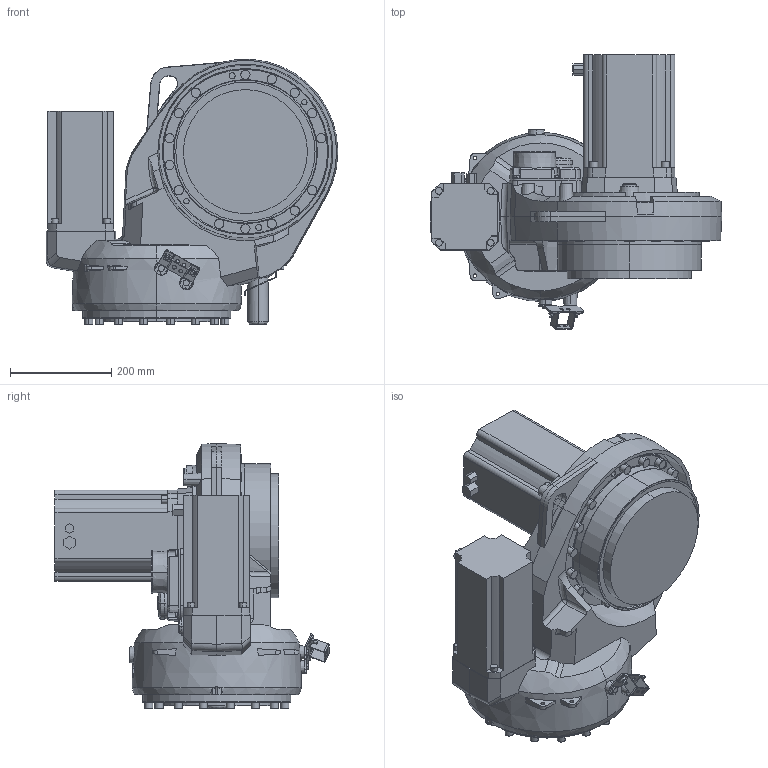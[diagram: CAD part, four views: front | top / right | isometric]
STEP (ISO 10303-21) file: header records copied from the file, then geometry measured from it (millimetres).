
FILE_DESCRIPTION (( 'STEP AP214' ), '1' );
FILE_NAME ('IRB4600_40-255_link1_CAD_03.STEP', '2012-06-25T08:55:33', ( 'ABB' ), ( 'ABB' ), 'SwSTEP 2.0', 'SolidWorks 2010', '' );
FILE_SCHEMA (( 'AUTOMOTIVE_DESIGN' ));
Length unit declared in the file: millimetre
Products named in the file (1): IRB4600_40-255_link1_CAD_03
Bounding box: 576 x 541.21 x 523.53 mm (x, y, z)
Volume: 42254339.4 mm3; surface area: 1413326.9 mm2
Topology: 1 solids, 1 shells, 920 faces, 2368 edges, 1529 vertices
Faces by surface type: plane 384, cylinder 279, cone 135, bspline 122
Entity records: 45213 total; most frequent: CARTESIAN_POINT 13296, ORIENTED_EDGE 4720, DIRECTION 4301, EDGE_CURVE 2360, AXIS2_PLACEMENT_3D 1616, VERTEX_POINT 1529, VECTOR 1069, LINE 1069
